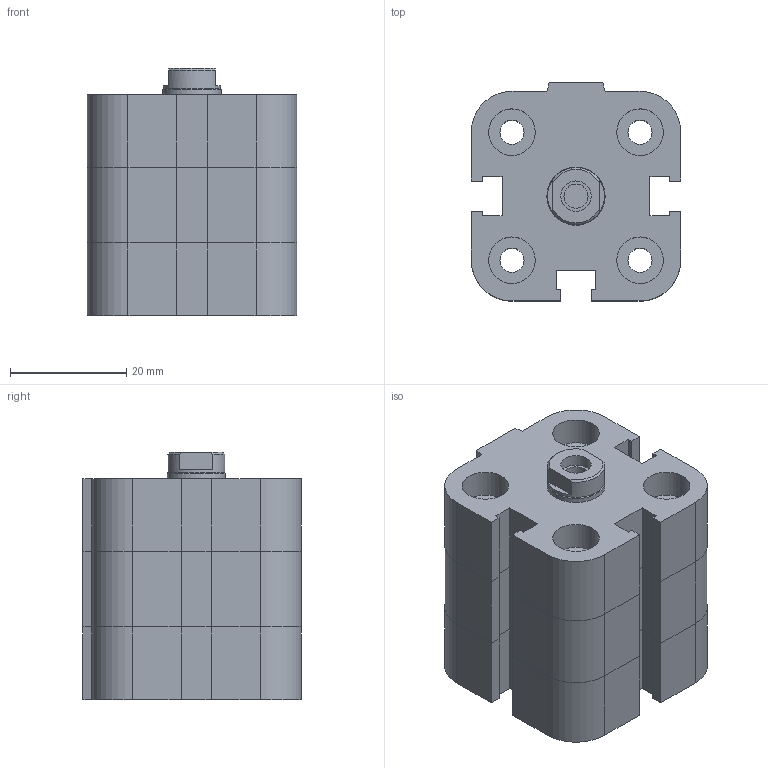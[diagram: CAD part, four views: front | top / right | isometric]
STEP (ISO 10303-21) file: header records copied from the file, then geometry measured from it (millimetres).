
FILE_DESCRIPTION((''),'2;1');
FILE_NAME('I:\Area Tecnica\Disegni\VARIE-3D\Componenti\EUROPE\15##_###_####_01_#\1581_20_0000_01_1.stp','2008-12-19T15:38:37',('rivolro1'),(''),'Autodesk Inventor 2009','Autodesk Inventor 2009','');
FILE_SCHEMA(('AUTOMOTIVE_DESIGN { 1 0 10303 214 1 1 1 1 }'));
Length unit declared in the file: millimetre
Products named in the file (3): 1581_20_0000_01_1; 1581_20_0000_01_1_C; 1561_20_0000_01_1_S
Assembly tree (2 placements, depth 2):
  1581_20_0000_01_1
    1581_20_0000_01_1_C
    1561_20_0000_01_1_S
Bounding box: 36 x 37.5 x 42.5 mm (x, y, z)
Volume: 41003.5 mm3; surface area: 13171.2 mm2
Topology: 2 solids, 2 shells, 151 faces, 329 edges, 195 vertices
Faces by surface type: plane 108, bspline 22, cylinder 18, cone 3
Full cylindrical faces by diameter (mm): 8 x4, 9.8 x1, 10 x1
Entity records: 4259 total; most frequent: CARTESIAN_POINT 912, DIRECTION 630, ORIENTED_EDGE 614, EDGE_CURVE 307, VECTOR 244, LINE 244, AXIS2_PLACEMENT_3D 193, VERTEX_POINT 193
